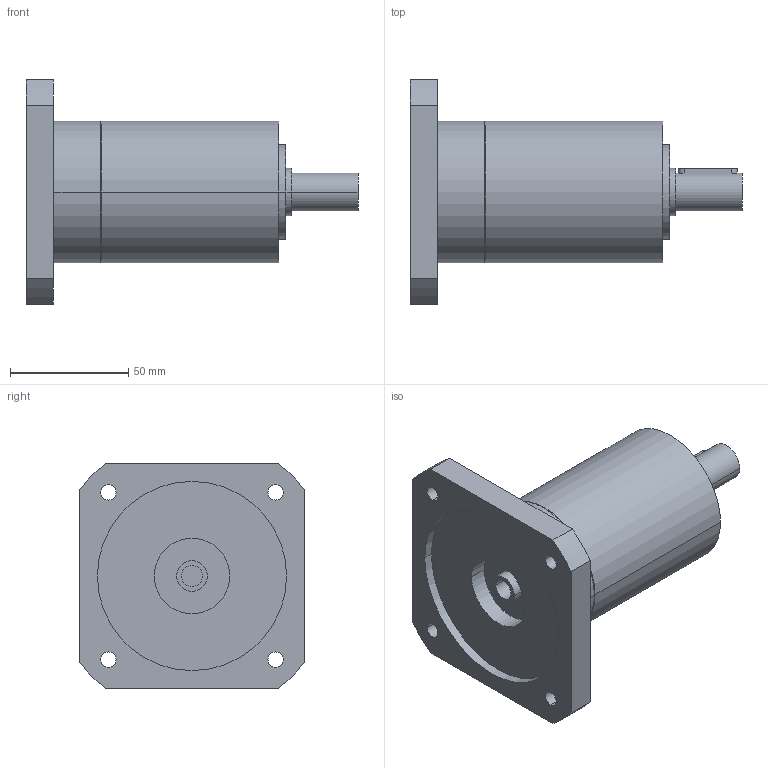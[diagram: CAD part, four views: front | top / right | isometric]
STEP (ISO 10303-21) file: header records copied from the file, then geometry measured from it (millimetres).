
FILE_DESCRIPTION(('CoCreate Modeling STEP Export'),'2;1');
FILE_NAME('GPR75_ig-9-12-16-20-24-30-36_16_B14_9_P07.stp','2014-08-25T16:07:16',(''),(''),'CoCreate Modeling STEP processor for AP214 (Solid Model)','CoCreate Modeling 16.00C 25-Feb-2009 (C) Parametric Technology GmbH','');
FILE_SCHEMA(('AUTOMOTIVE_DESIGN { 1 0 10303 214 1 1 1 1 }'));
Length unit declared in the file: millimetre
Products named in the file (2): GPR75_ig-9-12-16-20-24-30-36_16_B14_9_P07
Assembly tree (1 placements, depth 2):
  GPR75_ig-9-12-16-20-24-30-36_16_B14_9_P07
    GPR75_ig-9-12-16-20-24-30-36_16_B14_9_P07
Bounding box: 140.4 x 95 x 95 mm (x, y, z)
Volume: 352195.7 mm3; surface area: 45881.1 mm2
Topology: 1 solids, 1 shells, 70 faces, 189 edges, 133 vertices
Faces by surface type: cylinder 42, plane 22, cone 6
Entity records: 1944 total; most frequent: ORIENTED_EDGE 374, CARTESIAN_POINT 361, DIRECTION 262, EDGE_CURVE 187, VERTEX_POINT 133, AXIS2_PLACEMENT_3D 98, EDGE_LOOP 92, FACE_OUTER_BOUND 70
